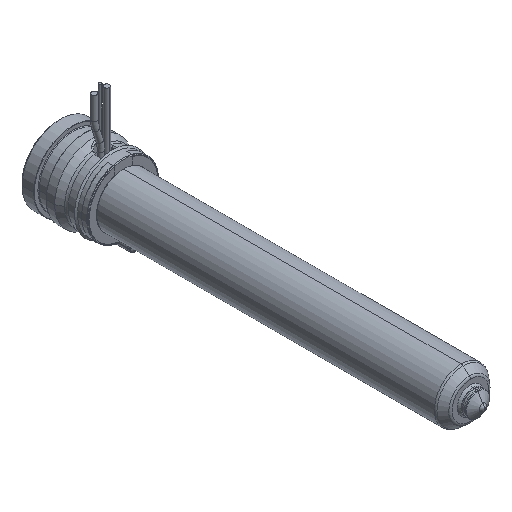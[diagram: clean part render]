
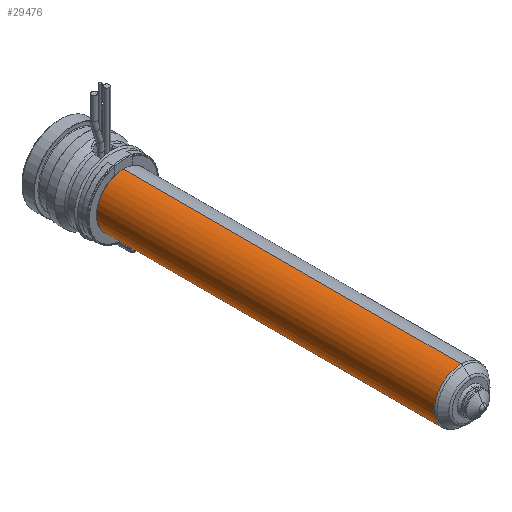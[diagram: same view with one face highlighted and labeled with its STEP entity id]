
A CAD part, isometric view. The second image highlights one B-rep face of the part: STEP entity #29476.
In plain terms, the highlighted cylindrical face has radius 9 mm (diameter 18 mm), a partial arc.
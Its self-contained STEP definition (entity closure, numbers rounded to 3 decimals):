
#28880=CARTESIAN_POINT('',(0.,-135.836,0.));
#28881=DIRECTION('',(0.,-1.,0.));
#28882=DIRECTION('',(0.,0.,1.));
#28883=AXIS2_PLACEMENT_3D('',#28880,#28881,#28882);
#28885=CARTESIAN_POINT('',(0.,-22.,0.));
#28886=DIRECTION('',(0.,1.,0.));
#28887=DIRECTION('',(0.,0.,-1.));
#28888=AXIS2_PLACEMENT_3D('',#28885,#28886,#28887);
#28890=DIRECTION('',(0.,1.,0.));
#28891=VECTOR('',#28890,113.836);
#28892=CARTESIAN_POINT('',(0.,-135.836,9.));
#28893=LINE('',#28892,#28891);
#28899=DIRECTION('',(0.,1.,0.));
#28900=VECTOR('',#28899,113.836);
#28901=CARTESIAN_POINT('',(0.,-135.836,-9.));
#28902=LINE('',#28901,#28900);
#29019=CARTESIAN_POINT('',(0.,-135.836,9.));
#29020=CARTESIAN_POINT('',(0.,-22.,9.));
#29021=VERTEX_POINT('',#29019);
#29022=VERTEX_POINT('',#29020);
#29023=CARTESIAN_POINT('',(0.,-135.836,-9.));
#29024=CARTESIAN_POINT('',(0.,-22.,-9.));
#29025=VERTEX_POINT('',#29023);
#29026=VERTEX_POINT('',#29024);
#29462=CARTESIAN_POINT('',(0.,-11.7,0.));
#29463=DIRECTION('',(0.,-1.,0.));
#29464=DIRECTION('',(0.,0.,1.));
#29465=AXIS2_PLACEMENT_3D('',#29462,#29463,#29464);
#29466=CYLINDRICAL_SURFACE('',#29465,9.);
#29468=ORIENTED_EDGE('',*,*,#29467,.F.);
#29469=ORIENTED_EDGE('',*,*,#29450,.T.);
#29471=ORIENTED_EDGE('',*,*,#29470,.T.);
#29473=ORIENTED_EDGE('',*,*,#29472,.T.);
#29474=EDGE_LOOP('',(#29468,#29469,#29471,#29473));
#29475=FACE_OUTER_BOUND('',#29474,.F.);
#29476=ADVANCED_FACE('',(#29475),#29466,.T.);
#28884=CIRCLE('',#28883,9.);
#28889=CIRCLE('',#28888,9.);
#29450=EDGE_CURVE('',#29021,#29025,#28884,.T.);
#29467=EDGE_CURVE('',#29021,#29022,#28893,.T.);
#29470=EDGE_CURVE('',#29025,#29026,#28902,.T.);
#29472=EDGE_CURVE('',#29026,#29022,#28889,.T.);
